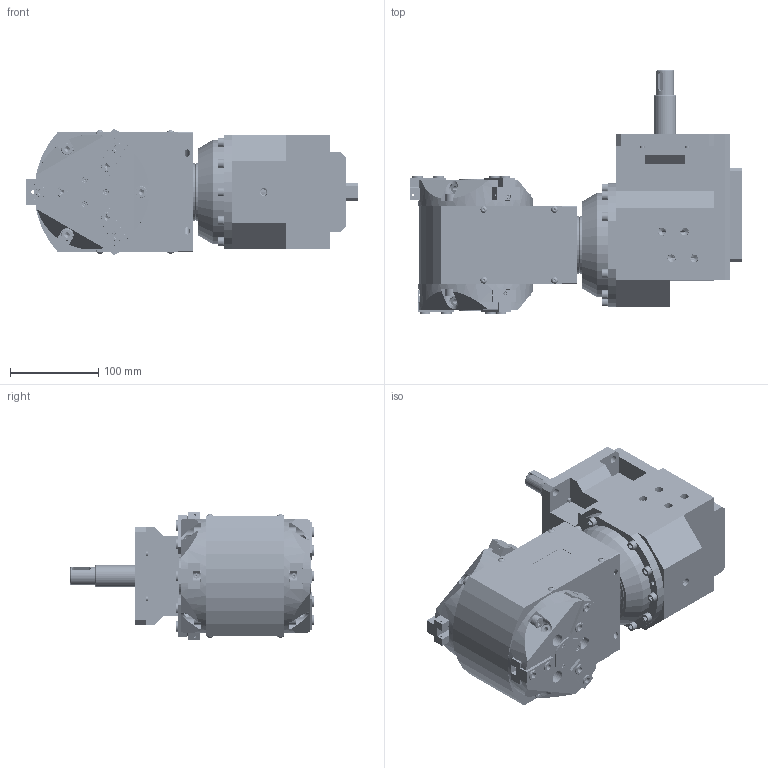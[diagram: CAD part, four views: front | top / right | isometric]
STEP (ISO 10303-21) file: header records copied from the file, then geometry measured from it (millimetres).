
FILE_DESCRIPTION (( 'STEP AP214' ), '1' );
FILE_NAME ('SBG060-D3PG 125.STEP', '2012-03-13T05:08:28', ( 'xw4600' ), ( '' ), 'SwSTEP 2.0', 'SolidWorks 2010', '' );
FILE_SCHEMA (( 'AUTOMOTIVE_DESIGN' ));
Length unit declared in the file: millimetre
Products named in the file (38): DMT_SBG_060_2.5_00_Default; DMT_SBG_060_2.5_01_Default; DMT_SBG_060_2.5_02_Default; DMT_SBG_060_2.5_03_Default; DMT_SBG_060_2.5_08_Default; DMT_SBG_060_2.5_09_Default; DMT_SBG_060_2.5_14_Default; DMT_SBG_060_2.5_15_Default; DMT_SBG_060_2.5_16_Default; DMT_SBG_060_2.5_20_Default; DMT-SBG60-120-A00-1_Default; OIL SEAL(TC-65-90-13)_Default; OIL SEAL(TC-25-40-7)_Default; KS B 2023 S60 - 6006-D-C_PreviewCfg; ISO 10642 - M4 x 15 --- 10N_PreviewCfg; BB M6 x 25_PreviewCfg; BB M5 x 10_PreviewCfg; BB M5 x 20_PreviewCfg; BB M4 x 15_PreviewCfg; D3PG125-00_Default; D3PG125-02_Default; D3PG125-01_Default; D3PG125-04_Default; D3PG125-07_ル遽; D3PG125-10_ル遽; D3PG125-06-1_ル遽; D3PG125-06-2_ル遽; D3PG125-11_Default; Q-ring(Q4212)_Default; O-rings(S95)_O-ring 95x2.65-B-ISO 3601-1; Socket Head Cap Screw_ISO_ISO 4762 M3 x 30 --- 18N; Socket Countersunk Head Screw_ISO_ISO 10642 - M3 x 8 --- 8N; SPRING(D3PG125)_Default; Socket Head Cap Screw_ISO_ISO 4762 M8 x 25 --- 25N; Socket Button Head Screw_ISO_ISO 7380 - M4 x 10 --- 10N; BB M10 x 25_PreviewCfg; PIN(10X22)_Default; SBG060-D3PG 125
Assembly tree (112 placements, depth 3):
  SBG060-D3PG 125
    DMT_SBG_060_2.5_00_Default
      BB M4 x 15_PreviewCfg  x4
      DMT_SBG_060_2.5_01_Default
      ISO 10642 - M4 x 15 --- 10N_PreviewCfg  x2
      BB M5 x 20_PreviewCfg  x6
      DMT_SBG_060_2.5_16_Default
      BB M6 x 25_PreviewCfg  x11
      BB M5 x 10_PreviewCfg  x4
      DMT_SBG_060_2.5_15_Default  x2
      KS B 2023 S60 - 6006-D-C_PreviewCfg
      PIN(10X22)_Default  x2
      DMT_SBG_060_2.5_14_Default
      DMT_SBG_060_2.5_09_Default
      OIL SEAL(TC-25-40-7)_Default
      DMT_SBG_060_2.5_08_Default
      OIL SEAL(TC-65-90-13)_Default
      DMT_SBG_060_2.5_03_Default
      DMT-SBG60-120-A00-1_Default
      DMT_SBG_060_2.5_02_Default
      DMT_SBG_060_2.5_20_Default
    PIN(10X22)_Default  x2
    BB M10 x 25_PreviewCfg  x4
    D3PG125-00_Default
      D3PG125-07_ル遽  x2
      Socket Countersunk Head Screw_ISO_ISO 10642 - M3 x 8 --- 8N  x6
      Socket Head Cap Screw_ISO_ISO 4762 M8 x 25 --- 25N  x6
      D3PG125-10_ル遽  x12
      D3PG125-06-2_ル遽  x2
      Socket Button Head Screw_ISO_ISO 7380 - M4 x 10 --- 10N  x8
      D3PG125-04_Default  x6
      O-rings(S95)_O-ring 95x2.65-B-ISO 3601-1  x2
      D3PG125-06-1_ル遽  x2
      Q-ring(Q4212)_Default  x2
      Socket Head Cap Screw_ISO_ISO 4762 M3 x 30 --- 18N  x4
      D3PG125-01_Default  x2
      SPRING(D3PG125)_Default  x4
      D3PG125-11_Default  x2
      D3PG125-02_Default
Bounding box: 375.38 x 276 x 143.84 mm (x, y, z)
Volume: 3937730 mm3; surface area: 876548.4 mm2
Topology: 112 solids, 118 shells, 4095 faces, 9737 edges, 5801 vertices
Faces by surface type: plane 1562, cylinder 1336, cone 671, torus 470, sphere 48, bspline 8
Entity records: 69246 total; most frequent: CARTESIAN_POINT 16658, DIRECTION 10788, ORIENTED_EDGE 9508, EDGE_CURVE 4754, AXIS2_PLACEMENT_3D 4348, VERTEX_POINT 2980, EDGE_LOOP 2470, CIRCLE 2226
